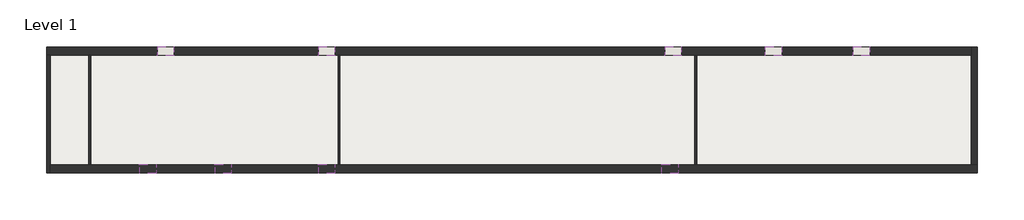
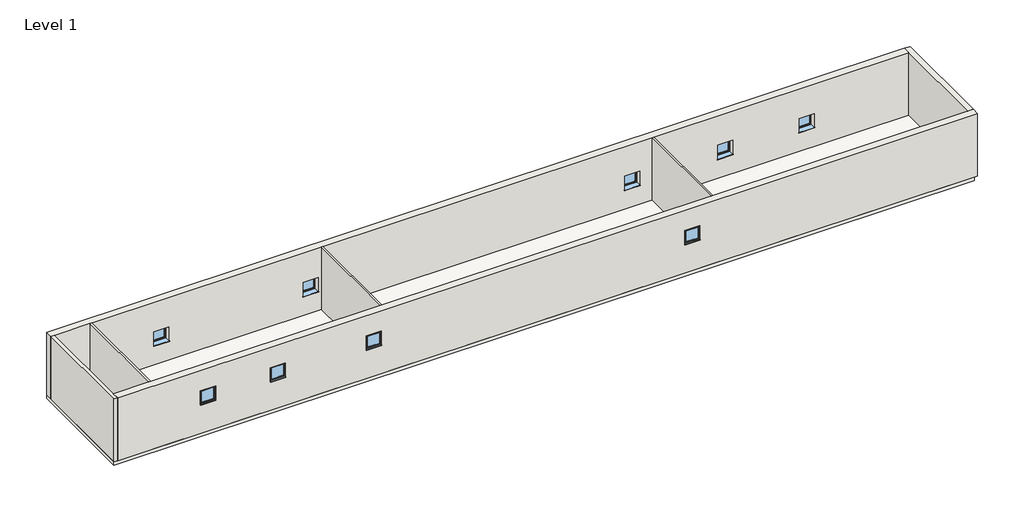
# One storey: 9 windows, 7 walls, 1 slab.
"""IFC4 building model written with IfcOpenShell, lengths in millimetres."""

from ifc_helpers import new_model, si_unit, frame, origin, place, context, project, spatial, polyline, outline, extrude, faceted_brep, transform, mapped, element, save
from components import windows_sgl_plain_910x910mm_e463b34e

model = new_model("IFC4")

# Units and contexts
model_context = context("Model", 3, world=origin())
ifc_project = project(units=[si_unit("LENGTHUNIT", "METRE", prefix="MILLI")], contexts=[model_context])

# Site, building, storey
site = spatial("IfcSite", under=ifc_project)
building = spatial("IfcBuilding", under=site)
storey = spatial("IfcBuildingStorey", under=building, Name="Level 1", Elevation=4000.0)

# Slab
placement = place(None, origin())
element("IfcSlab", 1, ObjectType="Floor-Upper_160mmConc-CorusComFlor51", at=placement, inside=storey, context=model_context, shape_type="SweptSolid", body=[
    extrude(outline(polyline([(48002.862776, 6252.2155732), (48002.862776, -787.7844268), (-3888.387224, -787.7844268), (-3888.387224, 6252.2155732), (48002.862776, 6252.2155732)])), frame((0.0, 0.0, 3789.0), z_axis=(0.0, 0.0, 1.0), x_axis=(1.0, 0.0, 0.0)), (0.0, 0.0, 1.0), 211.0),
])

# Walls
element("IfcWall", 2, ObjectType="Wall-Concrete_440blk", at=placement, inside=storey, context=model_context, shape_type="Brep", body=[
    faceted_brep([(-3888.387224, 5812.2155732, 4000.0), (-3673.387224, 5812.2155732, 4000.0), (-1523.387224, 5812.2155732, 4000.0), (-1423.387224, 5812.2155732, 4000.0), (12426.612776, 5812.2155732, 4000.0), (12526.612776, 5812.2155732, 4000.0), (32376.612776, 5812.2155732, 4000.0), (32476.612776, 5812.2155732, 4000.0), (47850.362776, 5812.2155732, 4000.0), (47850.362776, 5812.2155732, 8000.0), (32476.612776, 5812.2155732, 8000.0), (32376.612776, 5812.2155732, 8000.0), (12526.612776, 5812.2155732, 8000.0), (12426.612776, 5812.2155732, 8000.0), (-1423.387224, 5812.2155732, 8000.0), (-1523.387224, 5812.2155732, 8000.0), (-3673.387224, 5812.2155732, 8000.0), (-3888.387224, 5812.2155732, 8000.0), (41240.362776, 5812.2155732, 6110.0), (42150.362776, 5812.2155732, 6110.0), (42150.362776, 5812.2155732, 5200.0), (41240.362776, 5812.2155732, 5200.0), (36330.362776, 5812.2155732, 6110.0), (37240.362776, 5812.2155732, 6110.0), (37240.362776, 5812.2155732, 5200.0), (36330.362776, 5812.2155732, 5200.0), (30720.362776, 5812.2155732, 6110.0), (31630.362776, 5812.2155732, 6110.0), (31630.362776, 5812.2155732, 5200.0), (30720.362776, 5812.2155732, 5200.0), (11326.612776, 5812.2155732, 6110.0), (12236.612776, 5812.2155732, 6110.0), (12236.612776, 5812.2155732, 5200.0), (11326.612776, 5812.2155732, 5200.0), (2326.612776, 5812.2155732, 6110.0), (3236.612776, 5812.2155732, 6110.0), (3236.612776, 5812.2155732, 5200.0), (2326.612776, 5812.2155732, 5200.0), (-3888.387224, 6252.2155732, 4000.0), (-3888.387224, 6252.2155732, 8000.0), (47850.362776, 6252.2155732, 8000.0), (47850.362776, 6252.2155732, 4000.0), (41240.362776, 6252.2155732, 6110.0), (41240.362776, 6252.2155732, 5200.0), (42150.362776, 6252.2155732, 5200.0), (42150.362776, 6252.2155732, 6110.0), (36330.362776, 6252.2155732, 6110.0), (36330.362776, 6252.2155732, 5200.0), (37240.362776, 6252.2155732, 5200.0), (37240.362776, 6252.2155732, 6110.0), (30720.362776, 6252.2155732, 6110.0), (30720.362776, 6252.2155732, 5200.0), (31630.362776, 6252.2155732, 5200.0), (31630.362776, 6252.2155732, 6110.0), (11326.612776, 6252.2155732, 6110.0), (11326.612776, 6252.2155732, 5200.0), (12236.612776, 6252.2155732, 5200.0), (12236.612776, 6252.2155732, 6110.0), (2326.612776, 6252.2155732, 6110.0), (2326.612776, 6252.2155732, 5200.0), (3236.612776, 6252.2155732, 5200.0), (3236.612776, 6252.2155732, 6110.0)], [[[0, 1, 2, 3, 4, 5, 6, 7, 8, 9, 10, 11, 12, 13, 14, 15, 16, 17], [18, 19, 20, 21], [22, 23, 24, 25], [26, 27, 28, 29], [30, 31, 32, 33], [34, 35, 36, 37]], [[38, 39, 40, 41], [42, 43, 44, 45], [46, 47, 48, 49], [50, 51, 52, 53], [54, 55, 56, 57], [58, 59, 60, 61]], [[8, 7, 6, 5, 4, 3, 2, 1, 0, 38, 41]], [[17, 16, 15, 14, 13, 12, 11, 10, 9, 40, 39]], [[0, 17, 39, 38]], [[9, 8, 41, 40]], [[43, 42, 18, 21]], [[44, 43, 21, 20]], [[45, 44, 20, 19]], [[42, 45, 19, 18]], [[47, 46, 22, 25]], [[48, 47, 25, 24]], [[49, 48, 24, 23]], [[46, 49, 23, 22]], [[51, 50, 26, 29]], [[52, 51, 29, 28]], [[53, 52, 28, 27]], [[50, 53, 27, 26]], [[55, 54, 30, 33]], [[56, 55, 33, 32]], [[57, 56, 32, 31]], [[54, 57, 31, 30]], [[59, 58, 34, 37]], [[60, 59, 37, 36]], [[61, 60, 36, 35]], [[58, 61, 35, 34]]]),
])
element("IfcWall", 3, ObjectType="Wall-Concrete_440blk", at=placement, inside=storey, context=model_context, shape_type="Brep", body=[
    faceted_brep([(48187.862776, -347.7844268, 4000.0), (47850.362776, -347.7844268, 4000.0), (32476.612776, -347.7844268, 4000.0), (32376.612776, -347.7844268, 4000.0), (12526.612776, -347.7844268, 4000.0), (12426.612776, -347.7844268, 4000.0), (-1423.387224, -347.7844268, 4000.0), (-1523.387224, -347.7844268, 4000.0), (-3673.387224, -347.7844268, 4000.0), (-3673.387224, -347.7844268, 8000.0), (-1523.387224, -347.7844268, 8000.0), (-1423.387224, -347.7844268, 8000.0), (12426.612776, -347.7844268, 8000.0), (12526.612776, -347.7844268, 8000.0), (32376.612776, -347.7844268, 8000.0), (32476.612776, -347.7844268, 8000.0), (47850.362776, -347.7844268, 8000.0), (48187.862776, -347.7844268, 8000.0), (2236.612776, -347.7844268, 6704.0714174), (1326.612776, -347.7844268, 6704.0714174), (1326.612776, -347.7844268, 5794.0714174), (2236.612776, -347.7844268, 5794.0714174), (6446.612776, -347.7844268, 6702.8304188), (5536.612776, -347.7844268, 6702.8304188), (5536.612776, -347.7844268, 5792.8304188), (6446.612776, -347.7844268, 5792.8304188), (12236.612776, -347.7844268, 6702.8304188), (11326.612776, -347.7844268, 6702.8304188), (11326.612776, -347.7844268, 5792.8304188), (12236.612776, -347.7844268, 5792.8304188), (31450.362776, -347.7844268, 6702.8304188), (30540.362776, -347.7844268, 6702.8304188), (30540.362776, -347.7844268, 5792.8304188), (31450.362776, -347.7844268, 5792.8304188), (48187.862776, -787.7844268, 4000.0), (48187.862776, -787.7844268, 8000.0), (-3673.387224, -787.7844268, 8000.0), (-3673.387224, -787.7844268, 4000.0), (2236.612776, -787.7844268, 6704.0714174), (2236.612776, -787.7844268, 5794.0714174), (1326.612776, -787.7844268, 5794.0714174), (1326.612776, -787.7844268, 6704.0714174), (6446.612776, -787.7844268, 6702.8304188), (6446.612776, -787.7844268, 5792.8304188), (5536.612776, -787.7844268, 5792.8304188), (5536.612776, -787.7844268, 6702.8304188), (12236.612776, -787.7844268, 6702.8304188), (12236.612776, -787.7844268, 5792.8304188), (11326.612776, -787.7844268, 5792.8304188), (11326.612776, -787.7844268, 6702.8304188), (31450.362776, -787.7844268, 6702.8304188), (31450.362776, -787.7844268, 5792.8304188), (30540.362776, -787.7844268, 5792.8304188), (30540.362776, -787.7844268, 6702.8304188)], [[[0, 1, 2, 3, 4, 5, 6, 7, 8, 9, 10, 11, 12, 13, 14, 15, 16, 17], [18, 19, 20, 21], [22, 23, 24, 25], [26, 27, 28, 29], [30, 31, 32, 33]], [[34, 35, 36, 37], [38, 39, 40, 41], [42, 43, 44, 45], [46, 47, 48, 49], [50, 51, 52, 53]], [[8, 7, 6, 5, 4, 3, 2, 1, 0, 34, 37]], [[17, 16, 15, 14, 13, 12, 11, 10, 9, 36, 35]], [[0, 17, 35, 34]], [[9, 8, 37, 36]], [[39, 38, 18, 21]], [[40, 39, 21, 20]], [[41, 40, 20, 19]], [[38, 41, 19, 18]], [[43, 42, 22, 25]], [[44, 43, 25, 24]], [[45, 44, 24, 23]], [[42, 45, 23, 22]], [[47, 46, 26, 29]], [[48, 47, 29, 28]], [[49, 48, 28, 27]], [[46, 49, 27, 26]], [[51, 50, 30, 33]], [[52, 51, 33, 32]], [[53, 52, 32, 31]], [[50, 53, 31, 30]]]),
])
element("IfcWall", 4, ObjectType="Wall-Ext_215Bwk", at=placement, inside=storey, context=model_context, shape_type="Brep", body=[
    faceted_brep([(-3673.387224, -787.7844268, 4000.0), (-3673.387224, -347.7844268, 4000.0), (-3673.387224, 5812.2155732, 4000.0), (-3673.387224, 5812.2155732, 8000.0), (-3673.387224, -347.7844268, 8000.0), (-3673.387224, -787.7844268, 8000.0), (-3888.387224, -787.7844268, 4000.0), (-3888.387224, -787.7844268, 8000.0), (-3888.387224, 5812.2155732, 8000.0), (-3888.387224, 5812.2155732, 4000.0)], [[[0, 1, 2, 3, 4, 5]], [[6, 7, 8, 9]], [[2, 1, 0, 6, 9]], [[5, 4, 3, 8, 7]], [[0, 5, 7, 6]], [[3, 2, 9, 8]]]),
])
element("IfcWall", 5, ObjectType="Wall-Ext_35Rsc-50Air-100Ins-140Blk-12P", at=placement, inside=storey, context=model_context, shape_type="Brep", body=[
    faceted_brep([(47850.362776, 6252.2155732, 4000.0), (47850.362776, 5812.2155732, 4000.0), (47850.362776, -347.7844268, 4000.0), (47850.362776, -347.7844268, 8000.0), (47850.362776, 5812.2155732, 8000.0), (47850.362776, 6252.2155732, 8000.0), (48187.862776, 6252.2155732, 4000.0), (48187.862776, 6252.2155732, 8000.0), (48187.862776, -347.7844268, 8000.0), (48187.862776, -347.7844268, 4000.0)], [[[0, 1, 2, 3, 4, 5]], [[6, 7, 8, 9]], [[2, 1, 0, 6, 9]], [[5, 4, 3, 8, 7]], [[0, 5, 7, 6]], [[3, 2, 9, 8]]]),
])
element("IfcWall", 6, ObjectType="Wall-Partn_12P-75Std-12P", at=placement, inside=storey, context=model_context, shape_type="SweptSolid", body=[
    extrude(outline(polyline([(-1523.387224, -347.7844268), (-1523.387224, 5812.2155732), (-1423.387224, 5812.2155732), (-1423.387224, -347.7844268), (-1523.387224, -347.7844268)])), frame((0.0, 0.0, 4000.0), z_axis=(0.0, 0.0, 1.0), x_axis=(1.0, 0.0, 0.0)), (0.0, 0.0, 1.0), 4000.0),
])
element("IfcWall", 7, ObjectType="Wall-Partn_12P-75Std-12P", at=placement, inside=storey, context=model_context, shape_type="SweptSolid", body=[
    extrude(outline(polyline([(12526.612776, 5812.2155732), (12526.612776, -347.7844268), (12426.612776, -347.7844268), (12426.612776, 5812.2155732), (12526.612776, 5812.2155732)])), frame((0.0, 0.0, 4000.0), z_axis=(0.0, 0.0, 1.0), x_axis=(1.0, 0.0, 0.0)), (0.0, 0.0, 1.0), 4000.0),
])
element("IfcWall", 8, ObjectType="Wall-Partn_12P-75Std-12P", at=placement, inside=storey, context=model_context, shape_type="SweptSolid", body=[
    extrude(outline(polyline([(32476.612776, 5812.2155732), (32476.612776, -347.7844268), (32376.612776, -347.7844268), (32376.612776, 5812.2155732), (32476.612776, 5812.2155732)])), frame((0.0, 0.0, 4000.0), z_axis=(0.0, 0.0, 1.0), x_axis=(1.0, 0.0, 0.0)), (0.0, 0.0, 1.0), 4000.0),
])

# Windows
windows_sgl_plain_910x910mm_shape = windows_sgl_plain_910x910mm_e463b34e(model_context)
element("IfcWindow", 9, ObjectType="Windows_Sgl_Plain : 910x910mm", at=placement, inside=storey, context=model_context, shape_type="MappedRepresentation", body=[
    mapped(windows_sgl_plain_910x910mm_shape, transform((1781.612776, -559.327859, 4594.0714174), x_axis=(-1.0, 0.0, 0.0), y_axis=(0.0, -1.0, 0.0), z_axis=(0.0, 0.0, 1.0))),
])
element("IfcWindow", 10, ObjectType="Windows_Sgl_Plain : 910x910mm", at=placement, inside=storey, context=model_context, shape_type="MappedRepresentation", body=[
    mapped(windows_sgl_plain_910x910mm_shape, transform((5991.612776, -559.327859, 4592.8304188), x_axis=(-1.0, 0.0, 0.0), y_axis=(0.0, -1.0, 0.0), z_axis=(0.0, 0.0, 1.0))),
])
element("IfcWindow", 11, ObjectType="Windows_Sgl_Plain : 910x910mm", at=placement, inside=storey, context=model_context, shape_type="MappedRepresentation", body=[
    mapped(windows_sgl_plain_910x910mm_shape, transform((11781.612776, -559.327859, 4592.8304188), x_axis=(-1.0, 0.0, 0.0), y_axis=(0.0, -1.0, 0.0), z_axis=(0.0, 0.0, 1.0))),
])
element("IfcWindow", 12, ObjectType="Windows_Sgl_Plain : 910x910mm", at=placement, inside=storey, context=model_context, shape_type="MappedRepresentation", body=[
    mapped(windows_sgl_plain_910x910mm_shape, transform((30995.362776, -559.327859, 4592.8304188), x_axis=(-1.0, 0.0, 0.0), y_axis=(0.0, -1.0, 0.0), z_axis=(0.0, 0.0, 1.0))),
])
element("IfcWindow", 13, ObjectType="Windows_Sgl_Plain : 910x910mm", at=placement, inside=storey, context=model_context, shape_type="MappedRepresentation", body=[
    mapped(windows_sgl_plain_910x910mm_shape, transform((41695.362776, 6023.7590054, 4000.0), x_axis=(1.0, 0.0, 0.0), y_axis=(0.0, 1.0, 0.0), z_axis=(0.0, 0.0, 1.0))),
])
element("IfcWindow", 14, ObjectType="Windows_Sgl_Plain : 910x910mm", at=placement, inside=storey, context=model_context, shape_type="MappedRepresentation", body=[
    mapped(windows_sgl_plain_910x910mm_shape, transform((36785.362776, 6023.7590054, 4000.0), x_axis=(1.0, 0.0, 0.0), y_axis=(0.0, 1.0, 0.0), z_axis=(0.0, 0.0, 1.0))),
])
element("IfcWindow", 15, ObjectType="Windows_Sgl_Plain : 910x910mm", at=placement, inside=storey, context=model_context, shape_type="MappedRepresentation", body=[
    mapped(windows_sgl_plain_910x910mm_shape, transform((31175.362776, 6023.7590054, 4000.0), x_axis=(1.0, 0.0, 0.0), y_axis=(0.0, 1.0, 0.0), z_axis=(0.0, 0.0, 1.0))),
])
element("IfcWindow", 16, ObjectType="Windows_Sgl_Plain : 910x910mm", at=placement, inside=storey, context=model_context, shape_type="MappedRepresentation", body=[
    mapped(windows_sgl_plain_910x910mm_shape, transform((11781.612776, 6023.7590054, 4000.0), x_axis=(1.0, 0.0, 0.0), y_axis=(0.0, 1.0, 0.0), z_axis=(0.0, 0.0, 1.0))),
])
element("IfcWindow", 17, ObjectType="Windows_Sgl_Plain : 910x910mm", at=placement, inside=storey, context=model_context, shape_type="MappedRepresentation", body=[
    mapped(windows_sgl_plain_910x910mm_shape, transform((2781.612776, 6023.7590054, 4000.0), x_axis=(1.0, 0.0, 0.0), y_axis=(0.0, 1.0, 0.0), z_axis=(0.0, 0.0, 1.0))),
])

save(model, "model.ifc")
